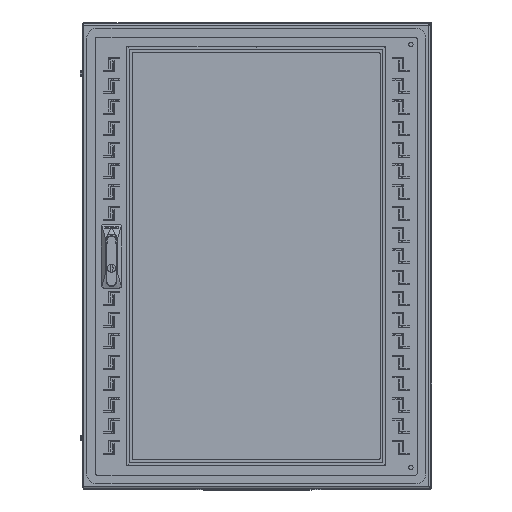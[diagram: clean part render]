
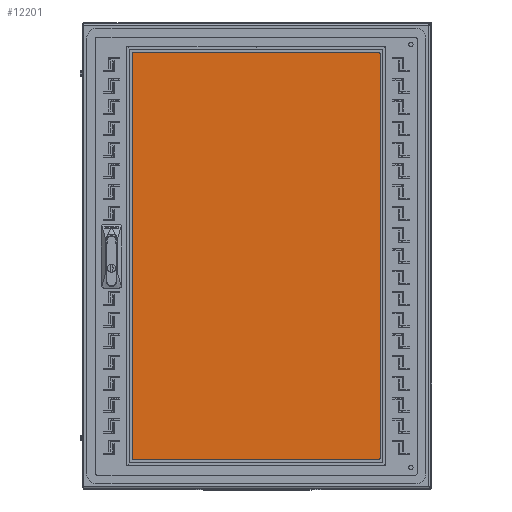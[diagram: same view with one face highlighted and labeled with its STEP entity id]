
A CAD part, top view. The second image highlights one B-rep face of the part: STEP entity #12201.
In plain terms, the highlighted planar face has unit normal (0, 0, 1) as drawn and (0, 0, -1) by its records, which use the part's own axes.
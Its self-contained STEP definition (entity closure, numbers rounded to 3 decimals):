
#6905 = VECTOR ( 'NONE', #41612, 1000. ) ;
#12201 = ADVANCED_FACE ( 'NONE', ( #113463 ), #17591, .T. ) ;
#15236 = CARTESIAN_POINT ( 'NONE',  ( 217.5, -355., 0. ) ) ;
#17591 = PLANE ( 'NONE',  #129944 ) ;
#18715 = CARTESIAN_POINT ( 'NONE',  ( 0., 0., 0. ) ) ;
#21346 = EDGE_LOOP ( 'NONE', ( #145217, #100538, #154440, #40870 ) ) ;
#21666 = LINE ( 'NONE', #106513, #155105 ) ;
#28253 = DIRECTION ( 'NONE',  ( 0., 1., 0. ) ) ;
#35448 = VECTOR ( 'NONE', #28253, 1000. ) ;
#40870 = ORIENTED_EDGE ( 'NONE', *, *, #56122, .F. ) ;
#41389 = CARTESIAN_POINT ( 'NONE',  ( -217.5, -355., 0. ) ) ;
#41612 = DIRECTION ( 'NONE',  ( 0., -1., 0. ) ) ;
#43975 = EDGE_CURVE ( 'NONE', #87115, #117428, #148851, .T. ) ;
#46881 = CARTESIAN_POINT ( 'NONE',  ( 217.5, -355., 0. ) ) ;
#49806 = VECTOR ( 'NONE', #143873, 1000. ) ;
#56122 = EDGE_CURVE ( 'NONE', #77195, #58519, #21666, .T. ) ;
#58519 = VERTEX_POINT ( 'NONE', #63189 ) ;
#63189 = CARTESIAN_POINT ( 'NONE',  ( -217.5, 355., 0. ) ) ;
#66483 = CARTESIAN_POINT ( 'NONE',  ( -217.5, -355., 0. ) ) ;
#70691 = DIRECTION ( 'NONE',  ( -1., 0., 0. ) ) ;
#77195 = VERTEX_POINT ( 'NONE', #151457 ) ;
#80007 = CARTESIAN_POINT ( 'NONE',  ( -217.5, -355., 0. ) ) ;
#87115 = VERTEX_POINT ( 'NONE', #41389 ) ;
#100538 = ORIENTED_EDGE ( 'NONE', *, *, #43975, .F. ) ;
#106513 = CARTESIAN_POINT ( 'NONE',  ( -217.5, 355., 0. ) ) ;
#113463 = FACE_OUTER_BOUND ( 'NONE', #21346, .T. ) ;
#117428 = VERTEX_POINT ( 'NONE', #46881 ) ;
#118166 = LINE ( 'NONE', #80007, #6905 ) ;
#119546 = DIRECTION ( 'NONE',  ( -1., 0., 0. ) ) ;
#129944 = AXIS2_PLACEMENT_3D ( 'NONE', #18715, #148060, #70691 ) ;
#138518 = LINE ( 'NONE', #15236, #35448 ) ;
#143873 = DIRECTION ( 'NONE',  ( 1., 0., 0. ) ) ;
#145217 = ORIENTED_EDGE ( 'NONE', *, *, #147433, .F. ) ;
#147433 = EDGE_CURVE ( 'NONE', #117428, #77195, #138518, .T. ) ;
#148060 = DIRECTION ( 'NONE',  ( 0., 0., -1. ) ) ;
#148083 = EDGE_CURVE ( 'NONE', #58519, #87115, #118166, .T. ) ;
#148851 = LINE ( 'NONE', #66483, #49806 ) ;
#151457 = CARTESIAN_POINT ( 'NONE',  ( 217.5, 355., 0. ) ) ;
#154440 = ORIENTED_EDGE ( 'NONE', *, *, #148083, .F. ) ;
#155105 = VECTOR ( 'NONE', #119546, 1000. ) ;
